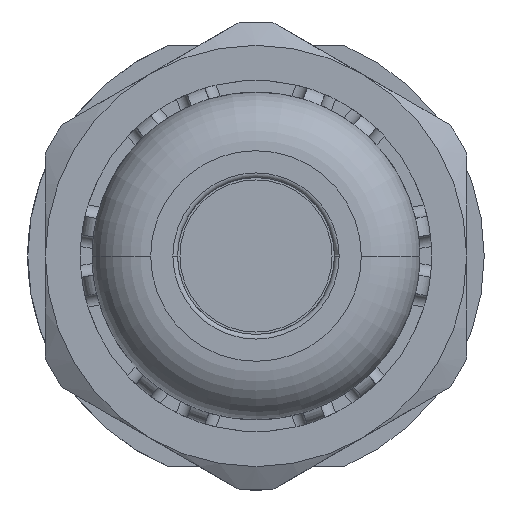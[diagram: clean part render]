
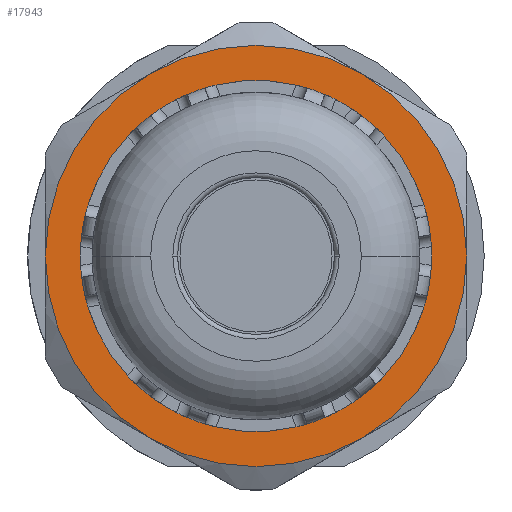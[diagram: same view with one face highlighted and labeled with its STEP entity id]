
A CAD part, left-side view. The second image highlights one B-rep face of the part: STEP entity #17943.
In plain terms, the highlighted planar face has unit normal (-1, 0, 0).
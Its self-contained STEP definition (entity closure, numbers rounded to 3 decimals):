
#6163=CARTESIAN_POINT('',(-3.8,0.,0.));
#6164=DIRECTION('',(1.,0.,0.));
#6165=DIRECTION('',(0.,-0.5,0.866));
#6166=AXIS2_PLACEMENT_3D('',#6163,#6164,#6165);
#6168=CARTESIAN_POINT('',(-3.8,0.,0.));
#6169=DIRECTION('',(1.,0.,0.));
#6170=DIRECTION('',(0.,-1.,0.));
#6171=AXIS2_PLACEMENT_3D('',#6168,#6169,#6170);
#6173=CARTESIAN_POINT('',(-3.8,0.,0.));
#6174=DIRECTION('',(1.,0.,0.));
#6175=DIRECTION('',(0.,-0.5,-0.866));
#6176=AXIS2_PLACEMENT_3D('',#6173,#6174,#6175);
#6178=CARTESIAN_POINT('',(-3.8,0.,0.));
#6179=DIRECTION('',(1.,0.,0.));
#6180=DIRECTION('',(0.,0.5,-0.866));
#6181=AXIS2_PLACEMENT_3D('',#6178,#6179,#6180);
#6183=CARTESIAN_POINT('',(-3.8,0.,0.));
#6184=DIRECTION('',(1.,0.,0.));
#6185=DIRECTION('',(0.,1.,0.));
#6186=AXIS2_PLACEMENT_3D('',#6183,#6184,#6185);
#6188=CARTESIAN_POINT('',(-3.8,0.,0.));
#6189=DIRECTION('',(1.,0.,0.));
#6190=DIRECTION('',(0.,0.5,0.866));
#6191=AXIS2_PLACEMENT_3D('',#6188,#6189,#6190);
#6193=CARTESIAN_POINT('',(-3.8,0.,0.));
#6194=DIRECTION('',(-1.,0.,0.));
#6195=DIRECTION('',(0.,-1.,0.));
#6196=AXIS2_PLACEMENT_3D('',#6193,#6194,#6195);
#6198=CARTESIAN_POINT('',(-3.8,0.,0.));
#6199=DIRECTION('',(-1.,0.,0.));
#6200=DIRECTION('',(0.,1.,0.));
#6201=AXIS2_PLACEMENT_3D('',#6198,#6199,#6200);
#9617=CARTESIAN_POINT('',(-3.8,7.25,0.));
#9618=VERTEX_POINT('',#9617);
#9619=CARTESIAN_POINT('',(-3.8,-7.25,0.));
#9620=VERTEX_POINT('',#9619);
#9621=CARTESIAN_POINT('',(-3.8,-4.5,7.794));
#9622=CARTESIAN_POINT('',(-3.8,-9.,0.));
#9623=VERTEX_POINT('',#9621);
#9624=VERTEX_POINT('',#9622);
#9625=CARTESIAN_POINT('',(-3.8,-4.5,
-7.794));
#9626=VERTEX_POINT('',#9625);
#9627=CARTESIAN_POINT('',(-3.8,4.5,
-7.794));
#9628=VERTEX_POINT('',#9627);
#9629=CARTESIAN_POINT('',(-3.8,9.,0.));
#9630=VERTEX_POINT('',#9629);
#9631=CARTESIAN_POINT('',(-3.8,4.5,7.794));
#9632=VERTEX_POINT('',#9631);
#17920=CARTESIAN_POINT('',(-3.8,0.,0.));
#17921=DIRECTION('',(1.,0.,0.));
#17922=DIRECTION('',(0.,1.,0.));
#17923=AXIS2_PLACEMENT_3D('',#17920,#17921,#17922);
#17924=PLANE('',#17923);
#17926=ORIENTED_EDGE('',*,*,#17925,.T.);
#17928=ORIENTED_EDGE('',*,*,#17927,.T.);
#17930=ORIENTED_EDGE('',*,*,#17929,.T.);
#17932=ORIENTED_EDGE('',*,*,#17931,.T.);
#17934=ORIENTED_EDGE('',*,*,#17933,.T.);
#17936=ORIENTED_EDGE('',*,*,#17935,.T.);
#17937=EDGE_LOOP('',(#17926,#17928,#17930,#17932,#17934,#17936));
#17938=FACE_OUTER_BOUND('',#17937,.F.);
#17939=ORIENTED_EDGE('',*,*,#17900,.T.);
#17940=ORIENTED_EDGE('',*,*,#17914,.T.);
#17941=EDGE_LOOP('',(#17939,#17940));
#17942=FACE_BOUND('',#17941,.F.);
#17943=ADVANCED_FACE('',(#17938,#17942),#17924,.F.);
#6167=CIRCLE('',#6166,9.);
#6172=CIRCLE('',#6171,9.);
#6177=CIRCLE('',#6176,9.);
#6182=CIRCLE('',#6181,9.);
#6187=CIRCLE('',#6186,9.);
#6192=CIRCLE('',#6191,9.);
#6197=CIRCLE('',#6196,7.25);
#6202=CIRCLE('',#6201,7.25);
#17900=EDGE_CURVE('',#9620,#9618,#6197,.T.);
#17914=EDGE_CURVE('',#9618,#9620,#6202,.T.);
#17925=EDGE_CURVE('',#9623,#9624,#6167,.T.);
#17927=EDGE_CURVE('',#9624,#9626,#6172,.T.);
#17929=EDGE_CURVE('',#9626,#9628,#6177,.T.);
#17931=EDGE_CURVE('',#9628,#9630,#6182,.T.);
#17933=EDGE_CURVE('',#9630,#9632,#6187,.T.);
#17935=EDGE_CURVE('',#9632,#9623,#6192,.T.);
